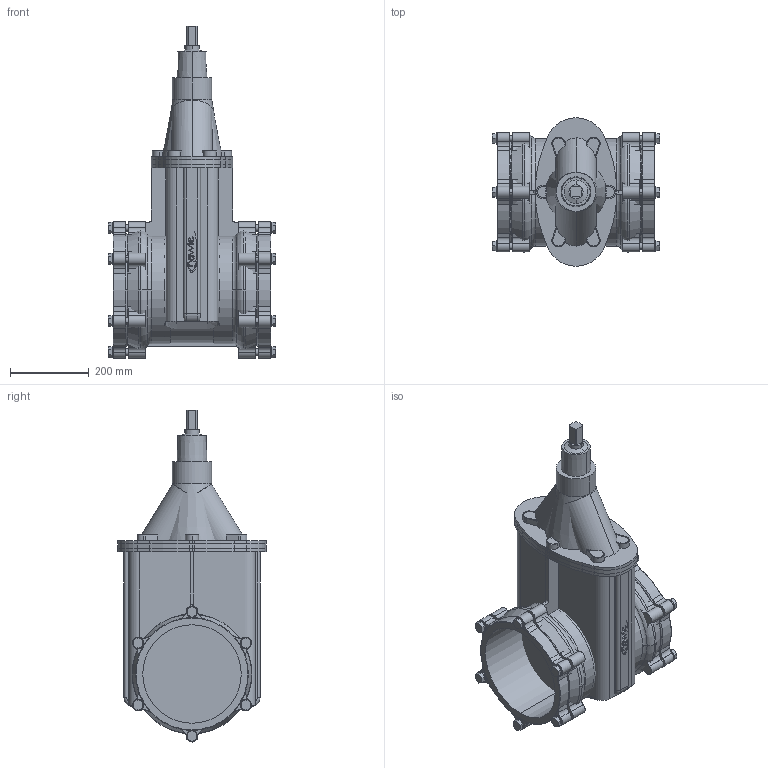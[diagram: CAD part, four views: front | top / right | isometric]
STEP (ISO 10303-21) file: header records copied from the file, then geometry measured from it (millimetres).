
FILE_DESCRIPTION(('STEP AP214'),'1');
FILE_NAME('S:/EK/USER/CAT6/3DHomepage/4040E2/4040E2-PN16-DN250-250.STP','2012-04-24T11:27:39',(' '),(' '),'Spatial InterOp 3D',' ',' ');
FILE_SCHEMA(('automotive_design'));
Length unit declared in the file: millimetre
Products named in the file (110): 3D-Objekt
Bounding box: 426 x 376.92 x 842.66 mm (x, y, z)
Volume: 37255906 mm3; surface area: 2408953.7 mm2
Topology: 110 solids, 110 shells, 926 faces, 2098 edges, 1396 vertices
Faces by surface type: plane 542, cylinder 330, torus 36, cone 14, bspline 4
Entity records: 36142 total; most frequent: DIRECTION 4958, CARTESIAN_POINT 4598, ORIENTED_EDGE 4196, EDGE_CURVE 2098, AXIS2_PLACEMENT_3D 1828, VERTEX_POINT 1396, LINE 1302, VECTOR 1302
